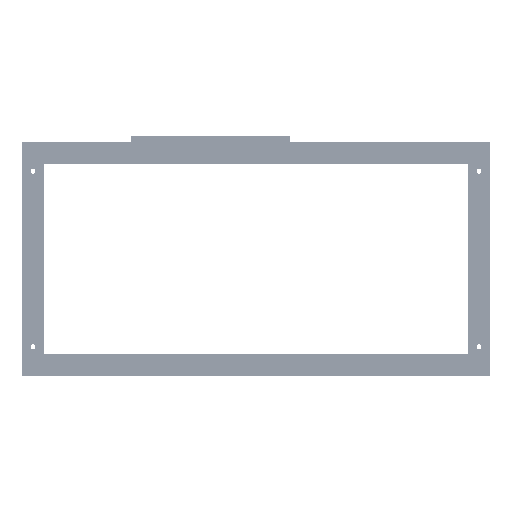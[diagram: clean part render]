
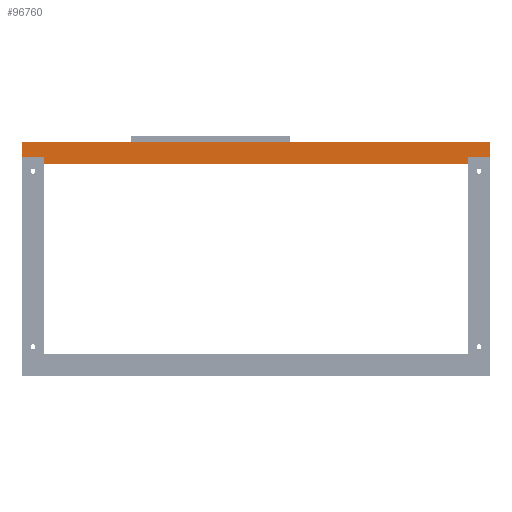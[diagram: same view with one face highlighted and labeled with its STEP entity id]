
A CAD part, front view. The second image highlights one B-rep face of the part: STEP entity #96760.
In plain terms, the highlighted planar face has unit normal (0, -1, 0).
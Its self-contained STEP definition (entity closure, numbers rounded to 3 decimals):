
#95478=DIRECTION('',(0.,0.,-1.));
#95479=VECTOR('',#95478,25.);
#95480=CARTESIAN_POINT('',(400.,0.,37.5));
#95481=LINE('',#95480,#95479);
#95958=DIRECTION('',(0.,0.,1.));
#95959=VECTOR('',#95958,12.5);
#95960=CARTESIAN_POINT('',(-362.5,0.,0.));
#95961=LINE('',#95960,#95959);
#95965=DIRECTION('',(1.,0.,0.));
#95966=VECTOR('',#95965,37.5);
#95967=CARTESIAN_POINT('',(-400.,0.,12.5));
#95968=LINE('',#95967,#95966);
#95972=DIRECTION('',(1.,0.,0.));
#95973=VECTOR('',#95972,800.);
#95974=CARTESIAN_POINT('',(-400.,0.,37.5));
#95975=LINE('',#95974,#95973);
#95979=DIRECTION('',(-1.,0.,0.));
#95980=VECTOR('',#95979,37.5);
#95981=CARTESIAN_POINT('',(400.,0.,12.5));
#95982=LINE('',#95981,#95980);
#95986=DIRECTION('',(0.,0.,1.));
#95987=VECTOR('',#95986,12.5);
#95988=CARTESIAN_POINT('',(362.5,0.,0.));
#95989=LINE('',#95988,#95987);
#96000=DIRECTION('',(1.,0.,0.));
#96001=VECTOR('',#96000,725.);
#96002=CARTESIAN_POINT('',(-362.5,0.,0.));
#96003=LINE('',#96002,#96001);
#96105=DIRECTION('',(0.,0.,-1.));
#96106=VECTOR('',#96105,25.);
#96107=CARTESIAN_POINT('',(-400.,0.,37.5));
#96108=LINE('',#96107,#96106);
#96341=CARTESIAN_POINT('',(400.,0.,37.5));
#96343=VERTEX_POINT('',#96341);
#96360=CARTESIAN_POINT('',(400.,0.,12.5));
#96362=VERTEX_POINT('',#96360);
#96364=CARTESIAN_POINT('',(362.5,0.,12.5));
#96365=VERTEX_POINT('',#96364);
#96366=CARTESIAN_POINT('',(362.5,0.,0.));
#96367=VERTEX_POINT('',#96366);
#96379=CARTESIAN_POINT('',(-400.,0.,37.5));
#96381=VERTEX_POINT('',#96379);
#96398=CARTESIAN_POINT('',(-400.,0.,12.5));
#96400=VERTEX_POINT('',#96398);
#96402=CARTESIAN_POINT('',(-362.5,0.,12.5));
#96403=VERTEX_POINT('',#96402);
#96404=CARTESIAN_POINT('',(-362.5,0.,0.));
#96405=VERTEX_POINT('',#96404);
#96739=CARTESIAN_POINT('',(0.,0.,37.5));
#96740=DIRECTION('',(0.,-1.,0.));
#96741=DIRECTION('',(0.,0.,-1.));
#96742=AXIS2_PLACEMENT_3D('',#96739,#96740,#96741);
#96743=PLANE('',#96742);
#96745=ORIENTED_EDGE('',*,*,#96744,.F.);
#96747=ORIENTED_EDGE('',*,*,#96746,.T.);
#96749=ORIENTED_EDGE('',*,*,#96748,.F.);
#96751=ORIENTED_EDGE('',*,*,#96750,.F.);
#96752=ORIENTED_EDGE('',*,*,#96664,.T.);
#96753=ORIENTED_EDGE('',*,*,#96511,.T.);
#96755=ORIENTED_EDGE('',*,*,#96754,.T.);
#96757=ORIENTED_EDGE('',*,*,#96756,.F.);
#96758=EDGE_LOOP('',(#96745,#96747,#96749,#96751,#96752,#96753,#96755,#96757));
#96759=FACE_OUTER_BOUND('',#96758,.F.);
#96511=EDGE_CURVE('',#96343,#96362,#95481,.T.);
#96664=EDGE_CURVE('',#96381,#96343,#95975,.T.);
#96744=EDGE_CURVE('',#96405,#96367,#96003,.T.);
#96746=EDGE_CURVE('',#96405,#96403,#95961,.T.);
#96748=EDGE_CURVE('',#96400,#96403,#95968,.T.);
#96750=EDGE_CURVE('',#96381,#96400,#96108,.T.);
#96754=EDGE_CURVE('',#96362,#96365,#95982,.T.);
#96756=EDGE_CURVE('',#96367,#96365,#95989,.T.);
#96760=ADVANCED_FACE('',(#96759),#96743,.T.);
